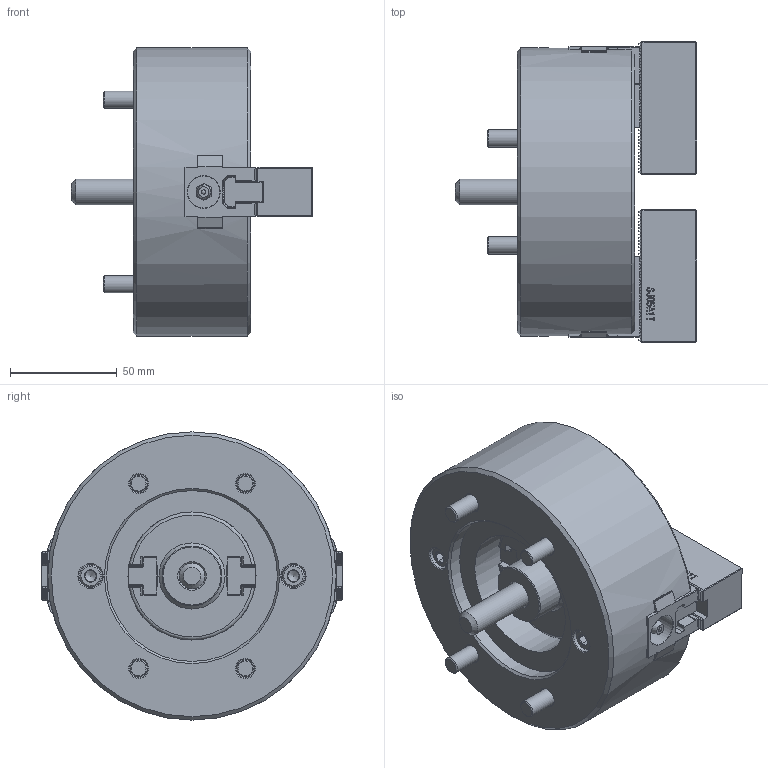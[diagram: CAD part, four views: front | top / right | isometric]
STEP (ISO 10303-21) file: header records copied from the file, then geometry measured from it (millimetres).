
FILE_DESCRIPTION (( 'STEP AP214' ), '1' );
FILE_NAME ('DT1_NT05_OUTSIDE_VIEW_UC.STEP', '2024-05-14T01:06:49', ( '' ), ( '' ), 'SwSTEP 2.0', 'SolidWorks 2022', '' );
FILE_SCHEMA (( 'AUTOMOTIVE_DESIGN' ));
Length unit declared in the file: millimetre
Products named in the file (10): DT1_NT05_TNUT^DT1_NT05_ﾃﾞﾌｫﾙﾄ; DT1_NT05_M8x22^DT1_NT05_ﾃﾞﾌｫﾙﾄ; DT1_NT05_DN^DT1_NT05_ﾃﾞﾌｫﾙﾄ; DT1_NT05_DRAWSCREW^DT1_NT05_ﾃﾞﾌｫﾙﾄ; DT1_NT05_M4x8^DT1_NT05_ﾃﾞﾌｫﾙﾄ; DT1_NT05_OUTSIDE_VIEW_UC; DT1_NT05_SOFTJAW^DT1_NT05_ﾃﾞﾌｫﾙﾄ; DT1_NT05_M8x60^DT1_NT05_ﾃﾞﾌｫﾙﾄ; DT1_NT05_COVER^DT1_NT05_ﾃﾞﾌｫﾙﾄ; DT1_NT05_BASE^DT1_NT05_ﾃﾞﾌｫﾙﾄ
Assembly tree (20 placements, depth 2):
  DT1_NT05_OUTSIDE_VIEW_UC
    DT1_NT05_SOFTJAW^DT1_NT05_ﾃﾞﾌｫﾙﾄ  x2
    DT1_NT05_TNUT^DT1_NT05_ﾃﾞﾌｫﾙﾄ  x2
    DT1_NT05_COVER^DT1_NT05_ﾃﾞﾌｫﾙﾄ
    DT1_NT05_DRAWSCREW^DT1_NT05_ﾃﾞﾌｫﾙﾄ
    DT1_NT05_DN^DT1_NT05_ﾃﾞﾌｫﾙﾄ
    DT1_NT05_BASE^DT1_NT05_ﾃﾞﾌｫﾙﾄ
    DT1_NT05_M8x22^DT1_NT05_ﾃﾞﾌｫﾙﾄ  x4
    DT1_NT05_M8x60^DT1_NT05_ﾃﾞﾌｫﾙﾄ  x4
    DT1_NT05_M4x8^DT1_NT05_ﾃﾞﾌｫﾙﾄ  x4
Bounding box: 113 x 140.8 x 135 mm (x, y, z)
Volume: 783239.3 mm3; surface area: 131999.7 mm2
Topology: 20 solids, 20 shells, 2748 faces, 7738 edges, 5070 vertices
Faces by surface type: plane 1948, cylinder 433, bspline 216, cone 128, torus 21, sphere 2
Full cylindrical faces by diameter (mm): 2 x2, 3.3 x4, 3.571 x4, 4 x4, 6.99 x4, 8 x12, 8.3 x4, 8.5 x8, 10.22 x2, 10.5 x1, 11 x2, 12 x2, 13.27 x8, 13.5 x4, 14 x4, 15 x2, 17.5 x1, 18 x1, 28 x1, 60 x1, 80 x1, 135 x1
Entity records: 73573 total; most frequent: CARTESIAN_POINT 22080, ORIENTED_EDGE 11410, DIRECTION 9175, EDGE_CURVE 5705, VECTOR 4419, LINE 4419, VERTEX_POINT 3800, AXIS2_PLACEMENT_3D 2378
